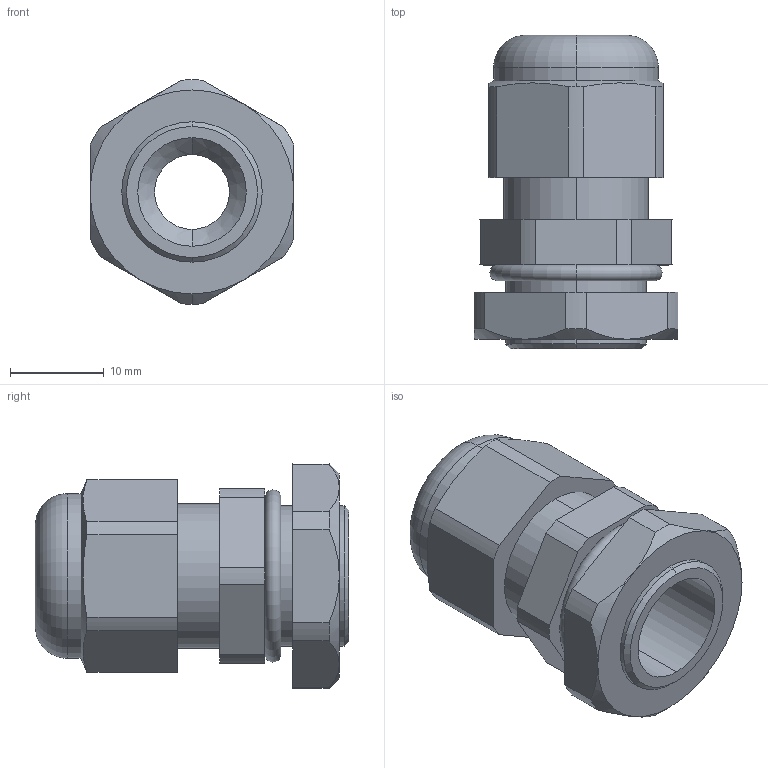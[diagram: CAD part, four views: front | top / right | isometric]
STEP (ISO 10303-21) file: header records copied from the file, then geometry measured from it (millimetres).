
FILE_DESCRIPTION (( 'STEP AP203' ), '1' );
FILE_NAME ('CH-M16.STEP', '2018-02-07T14:47:46', ( '' ), ( '' ), 'SwSTEP 2.0', 'SolidWorks 2012', '' );
FILE_SCHEMA (( 'CONFIG_CONTROL_DESIGN' ));
Length unit declared in the file: millimetre
Products named in the file (1): CH-M16
Bounding box: 21.8 x 33.5 x 23.99 mm (x, y, z)
Volume: 6473 mm3; surface area: 4199 mm2
Topology: 1 solids, 1 shells, 78 faces, 189 edges, 118 vertices
Faces by surface type: cylinder 34, plane 25, cone 15, torus 4
Entity records: 2438 total; most frequent: CARTESIAN_POINT 492, DIRECTION 415, ORIENTED_EDGE 378, EDGE_CURVE 189, AXIS2_PLACEMENT_3D 165, VERTEX_POINT 118, CIRCLE 86, EDGE_LOOP 85
